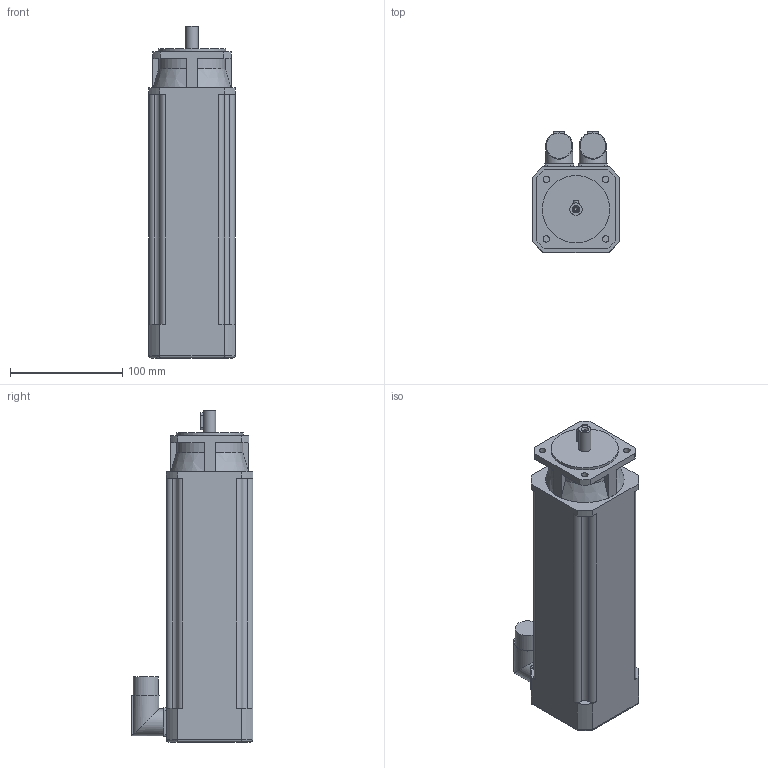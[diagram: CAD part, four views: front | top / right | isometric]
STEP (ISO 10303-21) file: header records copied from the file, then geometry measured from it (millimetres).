
FILE_DESCRIPTION(/* description */ (''),/* implementation_level */ '2;1');
FILE_NAME(/* name */ '\\Lafnas01\disegni\Archivi Lafert\3D\CAD 3D\MODELLI\Assiemi clienti\Serad\Modelli 3D Serad\B36I\Resolver\Res With Brake\B3603Ixx6B052033.ipt.stp',/* time_stamp */ '2015-09-07T10:49:03+02:00',/* author */ ('Pastrello Ylenia'),/* organization */ (''),/* preprocessor_version */ 'ST-DEVELOPER v15.6',/* originating_system */ 'Autodesk Inventor 2015',/* authorisation */ '');
FILE_SCHEMA (('AUTOMOTIVE_DESIGN { 1 0 10303 214 3 1 1 }'));
Length unit declared in the file: millimetre
Products named in the file (1): B3603Ixx6B052033
Bounding box: 77 x 108.5 x 296 mm (x, y, z)
Volume: 1516689.5 mm3; surface area: 101272 mm2
Topology: 1 solids, 1 shells, 137 faces, 372 edges, 244 vertices
Faces by surface type: plane 66, cylinder 56, cone 11, torus 4
Full cylindrical faces by diameter (mm): 3.242 x1, 4.3 x1, 5.8 x4, 11 x1, 22.7 x2, 24 x2, 60 x1
Entity records: 4352 total; most frequent: CARTESIAN_POINT 890, DIRECTION 726, ORIENTED_EDGE 702, EDGE_CURVE 351, AXIS2_PLACEMENT_3D 259, VERTEX_POINT 239, LINE 208, VECTOR 208
